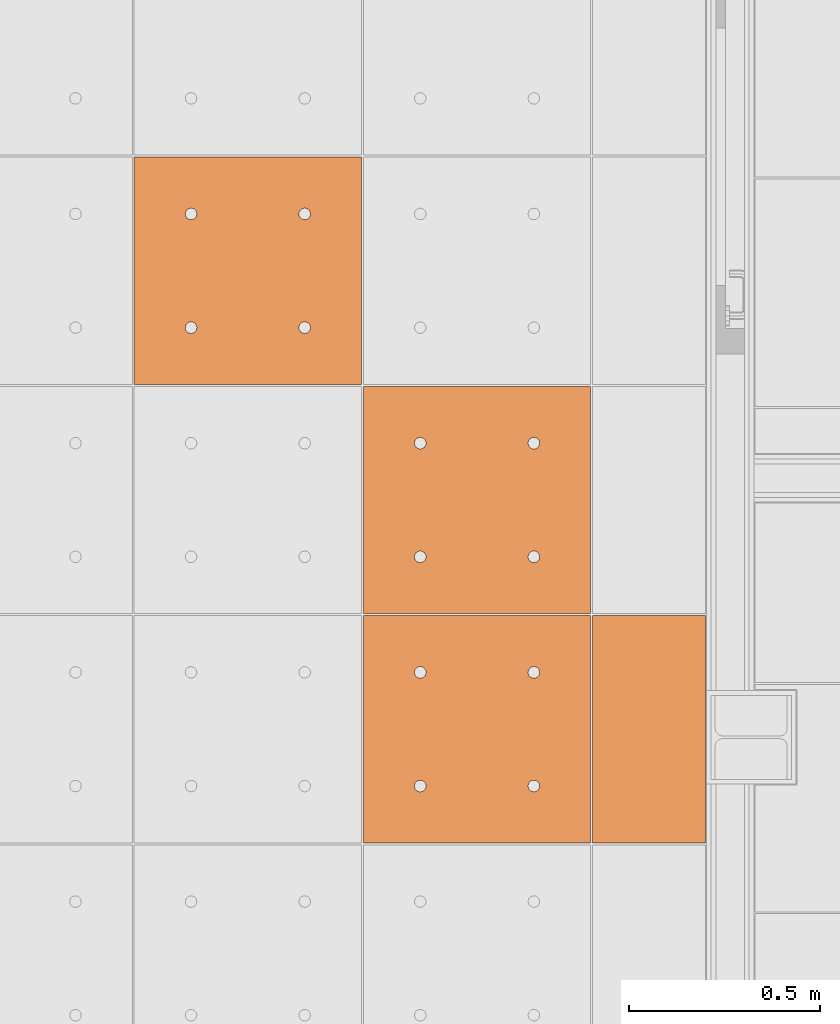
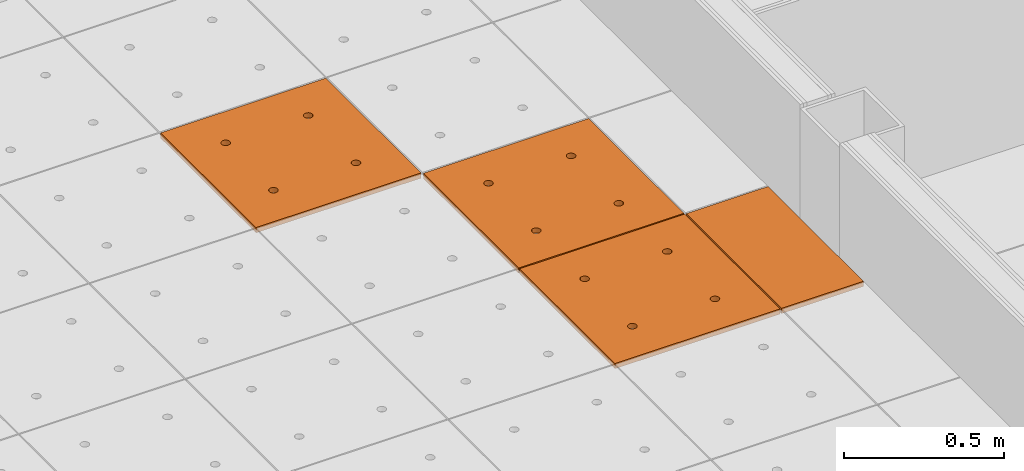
# One storey, part 275 of 338: 4 proxies, 1 element without a shape of its own.
"""IFC2X3 building model written with IfcOpenShell, lengths in millimetres."""

from ifc_helpers import new_model, entity, si_unit, converted_unit, derived_unit, money_unit, direction, frame, origin_with_axes, place, context, subcontext, project, spatial, faceted_brep, source, transform, mapped, material, type_object, type_shapes, element, aggregate, save


model = new_model("IFC2X3")

# Units and contexts
model_context = context("Model", 3, precision=0.01, world=origin_with_axes(), true_north=direction((0.0, 1.0)))
plan_context = context("Plan", 3, precision=0.01, world=origin_with_axes(), true_north=direction((0.0, 1.0)))
body_context = subcontext(model_context, "Body", "Model", "MODEL_VIEW")
ifc_project = project(units=[si_unit("LENGTHUNIT", "METRE", prefix="MILLI"), si_unit("AREAUNIT", "SQUARE_METRE"), si_unit("VOLUMEUNIT", "CUBIC_METRE"), converted_unit("PLANEANGLEUNIT", "DEGREE", entity("IfcPlaneAngleMeasure", 0.0174532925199), si_unit("PLANEANGLEUNIT", "RADIAN"), dimensions=[0, 0, 0, 0, 0, 0, 0]), money_unit("EUR"), converted_unit("TIMEUNIT", "Year", entity("IfcTimeMeasure", 31556926.0), si_unit("TIMEUNIT", "SECOND"), dimensions=[0, 0, 1, 0, 0, 0, 0]), si_unit("MASSUNIT", "GRAM", prefix="KILO"), si_unit("THERMODYNAMICTEMPERATUREUNIT", "DEGREE_CELSIUS"), si_unit("LUMINOUSINTENSITYUNIT", "LUMEN"), si_unit("ENERGYUNIT", "JOULE", prefix="MEGA"), derived_unit("THERMALCONDUCTANCEUNIT", [(si_unit("POWERUNIT", "WATT"), 1), (si_unit("LENGTHUNIT", "METRE"), -1), (si_unit("THERMODYNAMICTEMPERATUREUNIT", "KELVIN"), -1)]), derived_unit("SPECIFICHEATCAPACITYUNIT", [(si_unit("ENERGYUNIT", "JOULE"), 1), (si_unit("MASSUNIT", "GRAM", prefix="KILO"), -1), (si_unit("THERMODYNAMICTEMPERATUREUNIT", "KELVIN"), -1)]), derived_unit("MASSDENSITYUNIT", [(si_unit("MASSUNIT", "GRAM", prefix="KILO"), 1), (si_unit("VOLUMEUNIT", "CUBIC_METRE"), -1)])], contexts=[model_context, plan_context])

# Site, building, storey
site_placement = place(None, origin_with_axes())
site = spatial("IfcSite", under=ifc_project, at=site_placement, Name="Fortuinstraat Woensdrecht", CompositionType="ELEMENT")
building_placement = place(site_placement, origin_with_axes())
building = spatial("IfcBuilding", under=site, at=building_placement, Name="IKC Fortuna", CompositionType="ELEMENT")
storey_placement = place(building_placement, origin_with_axes())
storey = spatial("IfcBuildingStorey", under=building, at=storey_placement, Name="00 begane grond", CompositionType="ELEMENT", Elevation=0.0)

# Covering, proxies
covering_type = type_object("IfcCoveringType", Name="Curtain Wall Type", PredefinedType="CEILING")
covering_placement = place(storey_placement, frame((17451.9845996, 24118.5314449, 3210.0), z_axis=(0.0, 0.0, 1.0), x_axis=(1.0, 0.0, 0.0)))
covering = element("IfcCovering", 1, at=covering_placement, inside=storey, type_object=covering_type, Name="45_Plafondafwerking_P01", PredefinedType="CEILING")
ifc_material = material(Name="Gipsplaat")
building_element_proxy_type_1 = type_object("IfcBuildingElementProxyType", Name="Main Panel 600 x 600 x 20", PredefinedType="NOTDEFINED")
shared_shape_1 = source(origin_with_axes(), body_context, "Body", "Brep", [
    faceted_brep([(2.49999999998, 2.49999999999, -10.0), (300.0, 2.49999999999, -10.0), (300.0, 2.49999999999, 10.0), (2.49999999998, 2.49999999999, 10.0), (2.49999999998, 300.0, -10.0), (2.49999999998, 597.5, -10.0), (300.0, 597.5, -10.0), (597.5, 597.5, -10.0), (597.5, 300.0, -10.0), (597.5, 2.49999999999, -10.0), (166.25, 450.06232995, -10.0), (165.79423259, 452.64711538, -10.0), (164.896546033, 455.11348892, -10.0), (163.58421608, 457.38651108, -10.0), (161.897117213, 459.39711721, -10.0), (159.886511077, 461.08421608, -10.0), (157.613488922, 462.39654603, -10.0), (155.147115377, 463.29423259, -10.0), (152.562329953, 463.75, -10.0), (149.937670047, 463.75, -10.0), (147.352884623, 463.29423259, -10.0), (144.886511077, 462.39654603, -10.0), (142.613488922, 461.08421608, -10.0), (140.602882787, 459.39711721, -10.0), (138.91578392, 457.38651108, -10.0), (137.603453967, 455.11348892, -10.0), (136.705767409, 452.64711538, -10.0), (136.25, 450.06232995, -10.0), (136.25, 448.75, -10.0), (136.25, 447.43767005, -10.0), (136.705767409, 444.85288462, -10.0), (137.603453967, 442.38651108, -10.0), (138.91578392, 440.11348892, -10.0), (140.602882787, 438.10288279, -10.0), (142.613488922, 436.41578392, -10.0), (144.886511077, 435.10345397, -10.0), (147.352884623, 434.20576741, -10.0), (149.937670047, 433.75, -10.0), (152.562329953, 433.75, -10.0), (155.147115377, 434.20576741, -10.0), (157.613488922, 435.10345397, -10.0), (159.886511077, 436.41578392, -10.0), (161.897117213, 438.10288279, -10.0), (163.58421608, 440.11348892, -10.0), (164.896546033, 442.38651108, -10.0), (165.79423259, 444.85288462, -10.0), (166.25, 447.43767005, -10.0), (463.75, 450.06232995, -10.0), (463.29423259, 452.64711538, -10.0), (462.396546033, 455.11348892, -10.0), (461.08421608, 457.38651108, -10.0), (459.397117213, 459.39711721, -10.0), (457.386511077, 461.08421608, -10.0), (455.113488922, 462.39654603, -10.0), (452.647115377, 463.29423259, -10.0), (450.062329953, 463.75, -10.0), (447.437670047, 463.75, -10.0), (444.852884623, 463.29423259, -10.0), (442.386511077, 462.39654603, -10.0), (440.113488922, 461.08421608, -10.0), (438.102882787, 459.39711721, -10.0), (436.41578392, 457.38651108, -10.0), (435.103453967, 455.11348892, -10.0), (434.205767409, 452.64711538, -10.0), (433.75, 450.06232995, -10.0), (433.75, 448.75, -10.0), (433.75, 447.43767005, -10.0), (434.205767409, 444.85288462, -10.0), (435.103453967, 442.38651108, -10.0), (436.41578392, 440.11348892, -10.0), (438.102882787, 438.10288279, -10.0), (440.113488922, 436.41578392, -10.0), (442.386511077, 435.10345397, -10.0), (444.852884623, 434.20576741, -10.0), (447.437670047, 433.75, -10.0), (450.062329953, 433.75, -10.0), (452.647115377, 434.20576741, -10.0), (455.113488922, 435.10345397, -10.0), (457.386511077, 436.41578392, -10.0), (459.397117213, 438.10288279, -10.0), (461.08421608, 440.11348892, -10.0), (462.396546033, 442.38651108, -10.0), (463.29423259, 444.85288462, -10.0), (463.75, 447.43767005, -10.0), (463.75, 152.56232995, -10.0), (463.29423259, 155.14711538, -10.0), (462.396546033, 157.61348892, -10.0), (461.08421608, 159.88651108, -10.0), (459.397117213, 161.89711721, -10.0), (457.386511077, 163.58421608, -10.0), (455.113488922, 164.89654603, -10.0), (452.647115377, 165.79423259, -10.0), (450.062329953, 166.25, -10.0), (447.437670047, 166.25, -10.0), (444.852884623, 165.79423259, -10.0), (442.386511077, 164.89654603, -10.0), (440.113488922, 163.58421608, -10.0), (438.102882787, 161.89711721, -10.0), (436.41578392, 159.88651108, -10.0), (435.103453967, 157.61348892, -10.0), (434.205767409, 155.14711538, -10.0), (433.75, 152.56232995, -10.0), (433.75, 151.25, -10.0), (433.75, 149.93767005, -10.0), (434.205767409, 147.35288462, -10.0), (435.103453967, 144.88651108, -10.0), (436.41578392, 142.61348892, -10.0), (438.102882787, 140.60288279, -10.0), (440.113488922, 138.91578392, -10.0), (442.386511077, 137.60345397, -10.0), (444.852884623, 136.70576741, -10.0), (447.437670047, 136.25, -10.0), (450.062329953, 136.25, -10.0), (452.647115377, 136.70576741, -10.0), (455.113488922, 137.60345397, -10.0), (457.386511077, 138.91578392, -10.0), (459.397117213, 140.60288279, -10.0), (461.08421608, 142.61348892, -10.0), (462.396546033, 144.88651108, -10.0), (463.29423259, 147.35288462, -10.0), (463.75, 149.93767005, -10.0), (166.25, 152.56232995, -10.0), (165.79423259, 155.14711538, -10.0), (164.896546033, 157.61348892, -10.0), (163.58421608, 159.88651108, -10.0), (161.897117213, 161.89711721, -10.0), (159.886511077, 163.58421608, -10.0), (157.613488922, 164.89654603, -10.0), (155.147115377, 165.79423259, -10.0), (152.562329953, 166.25, -10.0), (149.937670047, 166.25, -10.0), (147.352884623, 165.79423259, -10.0), (144.886511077, 164.89654603, -10.0), (142.613488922, 163.58421608, -10.0), (140.602882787, 161.89711721, -10.0), (138.91578392, 159.88651108, -10.0), (137.603453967, 157.61348892, -10.0), (136.705767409, 155.14711538, -10.0), (136.25, 152.56232995, -10.0), (136.25, 151.25, -10.0), (136.25, 149.93767005, -10.0), (136.705767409, 147.35288462, -10.0), (137.603453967, 144.88651108, -10.0), (138.91578392, 142.61348892, -10.0), (140.602882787, 140.60288279, -10.0), (142.613488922, 138.91578392, -10.0), (144.886511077, 137.60345397, -10.0), (147.352884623, 136.70576741, -10.0), (149.937670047, 136.25, -10.0), (152.562329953, 136.25, -10.0), (155.147115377, 136.70576741, -10.0), (157.613488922, 137.60345397, -10.0), (159.886511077, 138.91578392, -10.0), (161.897117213, 140.60288279, -10.0), (163.58421608, 142.61348892, -10.0), (164.896546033, 144.88651108, -10.0), (165.79423259, 147.35288462, -10.0), (166.25, 149.93767005, -10.0), (597.5, 2.49999999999, 10.0), (597.5, 300.0, 10.0), (597.5, 597.5, 10.0), (300.0, 597.5, 10.0), (2.49999999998, 597.5, 10.0), (2.49999999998, 300.0, 10.0), (166.25, 450.06232995, 10.0), (166.25, 447.43767005, 10.0), (165.79423259, 444.85288462, 10.0), (164.896546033, 442.38651108, 10.0), (163.58421608, 440.11348892, 10.0), (161.897117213, 438.10288279, 10.0), (159.886511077, 436.41578392, 10.0), (157.613488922, 435.10345397, 10.0), (155.147115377, 434.20576741, 10.0), (152.562329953, 433.75, 10.0), (149.937670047, 433.75, 10.0), (147.352884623, 434.20576741, 10.0), (144.886511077, 435.10345397, 10.0), (142.613488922, 436.41578392, 10.0), (140.602882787, 438.10288279, 10.0), (138.91578392, 440.11348892, 10.0), (137.603453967, 442.38651108, 10.0), (136.705767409, 444.85288462, 10.0), (136.25, 447.43767005, 10.0), (136.25, 448.75, 10.0), (136.25, 450.06232995, 10.0), (136.705767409, 452.64711538, 10.0), (137.603453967, 455.11348892, 10.0), (138.91578392, 457.38651108, 10.0), (140.602882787, 459.39711721, 10.0), (142.613488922, 461.08421608, 10.0), (144.886511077, 462.39654603, 10.0), (147.352884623, 463.29423259, 10.0), (149.937670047, 463.75, 10.0), (152.562329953, 463.75, 10.0), (155.147115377, 463.29423259, 10.0), (157.613488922, 462.39654603, 10.0), (159.886511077, 461.08421608, 10.0), (161.897117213, 459.39711721, 10.0), (163.58421608, 457.38651108, 10.0), (164.896546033, 455.11348892, 10.0), (165.79423259, 452.64711538, 10.0), (463.75, 450.06232995, 10.0), (463.75, 447.43767005, 10.0), (463.29423259, 444.85288462, 10.0), (462.396546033, 442.38651108, 10.0), (461.08421608, 440.11348892, 10.0), (459.397117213, 438.10288279, 10.0), (457.386511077, 436.41578392, 10.0), (455.113488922, 435.10345397, 10.0), (452.647115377, 434.20576741, 10.0), (450.062329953, 433.75, 10.0), (447.437670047, 433.75, 10.0), (444.852884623, 434.20576741, 10.0), (442.386511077, 435.10345397, 10.0), (440.113488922, 436.41578392, 10.0), (438.102882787, 438.10288279, 10.0), (436.41578392, 440.11348892, 10.0), (435.103453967, 442.38651108, 10.0), (434.205767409, 444.85288462, 10.0), (433.75, 447.43767005, 10.0), (433.75, 448.75, 10.0), (433.75, 450.06232995, 10.0), (434.205767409, 452.64711538, 10.0), (435.103453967, 455.11348892, 10.0), (436.41578392, 457.38651108, 10.0), (438.102882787, 459.39711721, 10.0), (440.113488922, 461.08421608, 10.0), (442.386511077, 462.39654603, 10.0), (444.852884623, 463.29423259, 10.0), (447.437670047, 463.75, 10.0), (450.062329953, 463.75, 10.0), (452.647115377, 463.29423259, 10.0), (455.113488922, 462.39654603, 10.0), (457.386511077, 461.08421608, 10.0), (459.397117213, 459.39711721, 10.0), (461.08421608, 457.38651108, 10.0), (462.396546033, 455.11348892, 10.0), (463.29423259, 452.64711538, 10.0), (463.75, 152.56232995, 10.0), (463.75, 149.93767005, 10.0), (463.29423259, 147.35288462, 10.0), (462.396546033, 144.88651108, 10.0), (461.08421608, 142.61348892, 10.0), (459.397117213, 140.60288279, 10.0), (457.386511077, 138.91578392, 10.0), (455.113488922, 137.60345397, 10.0), (452.647115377, 136.70576741, 10.0), (450.062329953, 136.25, 10.0), (447.437670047, 136.25, 10.0), (444.852884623, 136.70576741, 10.0), (442.386511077, 137.60345397, 10.0), (440.113488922, 138.91578392, 10.0), (438.102882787, 140.60288279, 10.0), (436.41578392, 142.61348892, 10.0), (435.103453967, 144.88651108, 10.0), (434.205767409, 147.35288462, 10.0), (433.75, 149.93767005, 10.0), (433.75, 151.25, 10.0), (433.75, 152.56232995, 10.0), (434.205767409, 155.14711538, 10.0), (435.103453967, 157.61348892, 10.0), (436.41578392, 159.88651108, 10.0), (438.102882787, 161.89711721, 10.0), (440.113488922, 163.58421608, 10.0), (442.386511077, 164.89654603, 10.0), (444.852884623, 165.79423259, 10.0), (447.437670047, 166.25, 10.0), (450.062329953, 166.25, 10.0), (452.647115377, 165.79423259, 10.0), (455.113488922, 164.89654603, 10.0), (457.386511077, 163.58421608, 10.0), (459.397117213, 161.89711721, 10.0), (461.08421608, 159.88651108, 10.0), (462.396546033, 157.61348892, 10.0), (463.29423259, 155.14711538, 10.0), (166.25, 152.56232995, 10.0), (166.25, 149.93767005, 10.0), (165.79423259, 147.35288462, 10.0), (164.896546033, 144.88651108, 10.0), (163.58421608, 142.61348892, 10.0), (161.897117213, 140.60288279, 10.0), (159.886511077, 138.91578392, 10.0), (157.613488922, 137.60345397, 10.0), (155.147115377, 136.70576741, 10.0), (152.562329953, 136.25, 10.0), (149.937670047, 136.25, 10.0), (147.352884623, 136.70576741, 10.0), (144.886511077, 137.60345397, 10.0), (142.613488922, 138.91578392, 10.0), (140.602882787, 140.60288279, 10.0), (138.91578392, 142.61348892, 10.0), (137.603453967, 144.88651108, 10.0), (136.705767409, 147.35288462, 10.0), (136.25, 149.93767005, 10.0), (136.25, 151.25, 10.0), (136.25, 152.56232995, 10.0), (136.705767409, 155.14711538, 10.0), (137.603453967, 157.61348892, 10.0), (138.91578392, 159.88651108, 10.0), (140.602882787, 161.89711721, 10.0), (142.613488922, 163.58421608, 10.0), (144.886511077, 164.89654603, 10.0), (147.352884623, 165.79423259, 10.0), (149.937670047, 166.25, 10.0), (152.562329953, 166.25, 10.0), (155.147115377, 165.79423259, 10.0), (157.613488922, 164.89654603, 10.0), (159.886511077, 163.58421608, 10.0), (161.897117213, 161.89711721, 10.0), (163.58421608, 159.88651108, 10.0), (164.896546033, 157.61348892, 10.0), (165.79423259, 155.14711538, 10.0)], [[[0, 1, 2, 3]], [[0, 4, 5, 6, 7, 8, 9, 1], [10, 11, 12, 13, 14, 15, 16, 17, 18, 19, 20, 21, 22, 23, 24, 25, 26, 27, 28, 29, 30, 31, 32, 33, 34, 35, 36, 37, 38, 39, 40, 41, 42, 43, 44, 45, 46], [47, 48, 49, 50, 51, 52, 53, 54, 55, 56, 57, 58, 59, 60, 61, 62, 63, 64, 65, 66, 67, 68, 69, 70, 71, 72, 73, 74, 75, 76, 77, 78, 79, 80, 81, 82, 83], [84, 85, 86, 87, 88, 89, 90, 91, 92, 93, 94, 95, 96, 97, 98, 99, 100, 101, 102, 103, 104, 105, 106, 107, 108, 109, 110, 111, 112, 113, 114, 115, 116, 117, 118, 119, 120], [121, 122, 123, 124, 125, 126, 127, 128, 129, 130, 131, 132, 133, 134, 135, 136, 137, 138, 139, 140, 141, 142, 143, 144, 145, 146, 147, 148, 149, 150, 151, 152, 153, 154, 155, 156, 157]], [[1, 9, 158, 2]], [[3, 2, 158, 159, 160, 161, 162, 163], [164, 165, 166, 167, 168, 169, 170, 171, 172, 173, 174, 175, 176, 177, 178, 179, 180, 181, 182, 183, 184, 185, 186, 187, 188, 189, 190, 191, 192, 193, 194, 195, 196, 197, 198, 199, 200], [201, 202, 203, 204, 205, 206, 207, 208, 209, 210, 211, 212, 213, 214, 215, 216, 217, 218, 219, 220, 221, 222, 223, 224, 225, 226, 227, 228, 229, 230, 231, 232, 233, 234, 235, 236, 237], [238, 239, 240, 241, 242, 243, 244, 245, 246, 247, 248, 249, 250, 251, 252, 253, 254, 255, 256, 257, 258, 259, 260, 261, 262, 263, 264, 265, 266, 267, 268, 269, 270, 271, 272, 273, 274], [275, 276, 277, 278, 279, 280, 281, 282, 283, 284, 285, 286, 287, 288, 289, 290, 291, 292, 293, 294, 295, 296, 297, 298, 299, 300, 301, 302, 303, 304, 305, 306, 307, 308, 309, 310, 311]], [[4, 0, 3, 163]], [[5, 4, 163, 162]], [[6, 5, 162, 161]], [[7, 6, 161, 160]], [[8, 7, 160, 159]], [[9, 8, 159, 158]], [[11, 10, 164, 200]], [[12, 11, 200, 199]], [[13, 12, 199, 198]], [[14, 13, 198, 197]], [[15, 14, 197, 196]], [[16, 15, 196, 195]], [[17, 16, 195, 194]], [[18, 17, 194, 193]], [[19, 18, 193, 192]], [[20, 19, 192, 191]], [[21, 20, 191, 190]], [[22, 21, 190, 189]], [[23, 22, 189, 188]], [[24, 23, 188, 187]], [[25, 24, 187, 186]], [[26, 25, 186, 185]], [[27, 26, 185, 184]], [[28, 27, 184, 183]], [[29, 28, 183, 182]], [[30, 29, 182, 181]], [[31, 30, 181, 180]], [[32, 31, 180, 179]], [[33, 32, 179, 178]], [[34, 33, 178, 177]], [[35, 34, 177, 176]], [[36, 35, 176, 175]], [[37, 36, 175, 174]], [[38, 37, 174, 173]], [[39, 38, 173, 172]], [[40, 39, 172, 171]], [[41, 40, 171, 170]], [[42, 41, 170, 169]], [[43, 42, 169, 168]], [[44, 43, 168, 167]], [[45, 44, 167, 166]], [[46, 45, 166, 165]], [[10, 46, 165, 164]], [[48, 47, 201, 237]], [[49, 48, 237, 236]], [[50, 49, 236, 235]], [[51, 50, 235, 234]], [[52, 51, 234, 233]], [[53, 52, 233, 232]], [[54, 53, 232, 231]], [[55, 54, 231, 230]], [[56, 55, 230, 229]], [[57, 56, 229, 228]], [[58, 57, 228, 227]], [[59, 58, 227, 226]], [[60, 59, 226, 225]], [[61, 60, 225, 224]], [[62, 61, 224, 223]], [[63, 62, 223, 222]], [[64, 63, 222, 221]], [[65, 64, 221, 220]], [[66, 65, 220, 219]], [[67, 66, 219, 218]], [[68, 67, 218, 217]], [[69, 68, 217, 216]], [[70, 69, 216, 215]], [[71, 70, 215, 214]], [[72, 71, 214, 213]], [[73, 72, 213, 212]], [[74, 73, 212, 211]], [[75, 74, 211, 210]], [[76, 75, 210, 209]], [[77, 76, 209, 208]], [[78, 77, 208, 207]], [[79, 78, 207, 206]], [[80, 79, 206, 205]], [[81, 80, 205, 204]], [[82, 81, 204, 203]], [[83, 82, 203, 202]], [[47, 83, 202, 201]], [[85, 84, 238, 274]], [[86, 85, 274, 273]], [[87, 86, 273, 272]], [[88, 87, 272, 271]], [[89, 88, 271, 270]], [[90, 89, 270, 269]], [[91, 90, 269, 268]], [[92, 91, 268, 267]], [[93, 92, 267, 266]], [[94, 93, 266, 265]], [[95, 94, 265, 264]], [[96, 95, 264, 263]], [[97, 96, 263, 262]], [[98, 97, 262, 261]], [[99, 98, 261, 260]], [[100, 99, 260, 259]], [[101, 100, 259, 258]], [[102, 101, 258, 257]], [[103, 102, 257, 256]], [[104, 103, 256, 255]], [[105, 104, 255, 254]], [[106, 105, 254, 253]], [[107, 106, 253, 252]], [[108, 107, 252, 251]], [[109, 108, 251, 250]], [[110, 109, 250, 249]], [[111, 110, 249, 248]], [[112, 111, 248, 247]], [[113, 112, 247, 246]], [[114, 113, 246, 245]], [[115, 114, 245, 244]], [[116, 115, 244, 243]], [[117, 116, 243, 242]], [[118, 117, 242, 241]], [[119, 118, 241, 240]], [[120, 119, 240, 239]], [[84, 120, 239, 238]], [[122, 121, 275, 311]], [[123, 122, 311, 310]], [[124, 123, 310, 309]], [[125, 124, 309, 308]], [[126, 125, 308, 307]], [[127, 126, 307, 306]], [[128, 127, 306, 305]], [[129, 128, 305, 304]], [[130, 129, 304, 303]], [[131, 130, 303, 302]], [[132, 131, 302, 301]], [[133, 132, 301, 300]], [[134, 133, 300, 299]], [[135, 134, 299, 298]], [[136, 135, 298, 297]], [[137, 136, 297, 296]], [[138, 137, 296, 295]], [[139, 138, 295, 294]], [[140, 139, 294, 293]], [[141, 140, 293, 292]], [[142, 141, 292, 291]], [[143, 142, 291, 290]], [[144, 143, 290, 289]], [[145, 144, 289, 288]], [[146, 145, 288, 287]], [[147, 146, 287, 286]], [[148, 147, 286, 285]], [[149, 148, 285, 284]], [[150, 149, 284, 283]], [[151, 150, 283, 282]], [[152, 151, 282, 281]], [[153, 152, 281, 280]], [[154, 153, 280, 279]], [[155, 154, 279, 278]], [[156, 155, 278, 277]], [[157, 156, 277, 276]], [[121, 157, 276, 275]]]),
])
type_shapes(building_element_proxy_type_1, [shared_shape_1])
proxy_1_placement = place(covering_placement, frame((1800.0, 1200.0, 0.0), z_axis=(0.0, 0.0, 1.0), x_axis=(1.0, 0.0, 0.0)))
proxy_1 = element("IfcBuildingElementProxy", 2, at=proxy_1_placement, type_object=building_element_proxy_type_1, material=ifc_material, Name="__600x602 Rockfon Krios", context=body_context, shape_type="MappedRepresentation", body=[
    mapped(shared_shape_1, transform((300.0, 300.0, 0.0), x_axis=(-1.0, 0.0, 0.0), y_axis=(0.0, -1.0, 0.0), z_axis=(0.0, 0.0, 1.0))),
])
proxy_2_placement = place(covering_placement, frame((2400.0, 600.0, 0.0), z_axis=(0.0, 0.0, 1.0), x_axis=(1.0, 0.0, 0.0)))
proxy_2 = element("IfcBuildingElementProxy", 3, at=proxy_2_placement, type_object=building_element_proxy_type_1, material=ifc_material, Name="__600x623 Rockfon Krios", context=body_context, shape_type="MappedRepresentation", body=[
    mapped(shared_shape_1, transform((300.0, 300.0, 0.0), x_axis=(-1.0, 0.0, 0.0), y_axis=(0.0, -1.0, 0.0), z_axis=(0.0, 0.0, 1.0))),
])
proxy_3_placement = place(covering_placement, frame((2400.0, 0.0, 0.0), z_axis=(0.0, 0.0, 1.0), x_axis=(1.0, 0.0, 0.0)))
proxy_3 = element("IfcBuildingElementProxy", 4, at=proxy_3_placement, type_object=building_element_proxy_type_1, material=ifc_material, Name="__600x653 Rockfon Krios", context=body_context, shape_type="MappedRepresentation", body=[
    mapped(shared_shape_1, transform((300.0, 300.0, 0.0), x_axis=(-1.0, 0.0, 0.0), y_axis=(0.0, -1.0, 0.0), z_axis=(0.0, 0.0, 1.0))),
])
building_element_proxy_type_2 = type_object("IfcBuildingElementProxyType", Name="300 x 600 x 20", PredefinedType="NOTDEFINED")
shared_shape_2 = source(origin_with_axes(), body_context, "Body", "Brep", [
    faceted_brep([(302.549576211, 2.5, -10.0), (597.5, 2.49999999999, -10.0), (597.5, 2.49999999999, 10.0), (302.549576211, 2.5, 10.0), (302.549576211, 597.5, -10.0), (597.5, 597.5, -10.0), (597.5, 597.5, 10.0), (302.549576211, 597.5, 10.0)], [[[0, 1, 2, 3]], [[0, 4, 5, 1]], [[1, 5, 6, 2]], [[3, 2, 6, 7]], [[4, 0, 3, 7]], [[5, 4, 7, 6]]]),
])
type_shapes(building_element_proxy_type_2, [shared_shape_2])
proxy_4_placement = place(covering_placement, frame((2849.97521203, 0.0, 0.0), z_axis=(0.0, 0.0, 1.0), x_axis=(1.0, 0.0, 0.0)))
proxy_4 = element("IfcBuildingElementProxy", 5, at=proxy_4_placement, type_object=building_element_proxy_type_2, material=ifc_material, Name="__600x613 Rockfon Krios", context=body_context, shape_type="MappedRepresentation", body=[
    mapped(shared_shape_2, transform((450.024787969, 300.0, 0.0), x_axis=(-1.0, 0.0, 0.0), y_axis=(0.0, -1.0, 0.0), z_axis=(0.0, 0.0, 1.0))),
])
aggregate(covering, [proxy_1, proxy_4, proxy_2, proxy_3])

save(model, "model.ifc")
